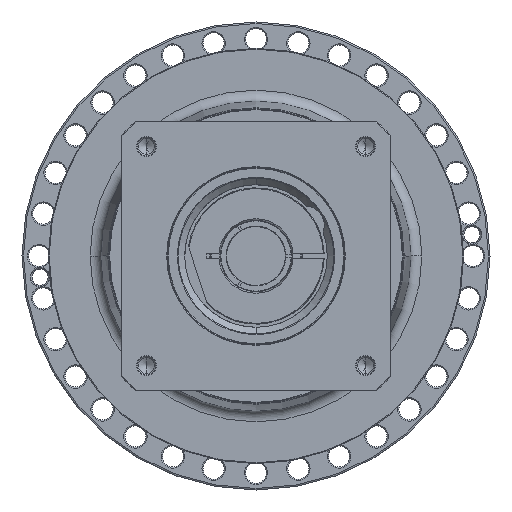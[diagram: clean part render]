
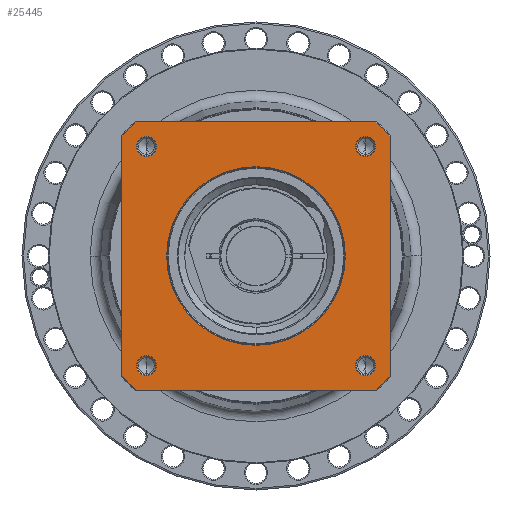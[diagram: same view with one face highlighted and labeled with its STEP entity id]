
A CAD part, left-side view. The second image highlights one B-rep face of the part: STEP entity #25445.
In plain terms, the highlighted planar face has unit normal (-1, 0, 0) as drawn and (0, 0, 1) by its records, which use the part's own axes.
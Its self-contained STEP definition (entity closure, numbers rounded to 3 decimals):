
#24196=CARTESIAN_POINT('',(0.,0.,
76.));
#24197=DIRECTION('',(0.,0.,-1.));
#24198=DIRECTION('',(0.,-1.,0.));
#24199=AXIS2_PLACEMENT_3D('',#24196,#24197,#24198);
#24201=CARTESIAN_POINT('',(0.,0.,
76.));
#24202=DIRECTION('',(0.,0.,-1.));
#24203=DIRECTION('',(0.,1.,0.));
#24204=AXIS2_PLACEMENT_3D('',#24201,#24202,#24203);
#24206=CARTESIAN_POINT('',(0.,0.,76.));
#24207=DIRECTION('',(0.,0.,1.));
#24208=DIRECTION('',(-0.746,-0.666,0.));
#24209=AXIS2_PLACEMENT_3D('',#24206,#24207,#24208);
#24221=DIRECTION('',(1.,0.,0.));
#24222=VECTOR('',#24221,154.58);
#24223=CARTESIAN_POINT('',(-77.29,-86.5,76.));
#24224=LINE('',#24223,#24222);
#24234=CARTESIAN_POINT('',(0.,0.,76.));
#24235=DIRECTION('',(0.,0.,1.));
#24236=DIRECTION('',(0.666,-0.746,0.));
#24237=AXIS2_PLACEMENT_3D('',#24234,#24235,#24236);
#24249=DIRECTION('',(0.,1.,0.));
#24250=VECTOR('',#24249,154.58);
#24251=CARTESIAN_POINT('',(86.5,-77.29,76.));
#24252=LINE('',#24251,#24250);
#24262=CARTESIAN_POINT('',(0.,0.,76.));
#24263=DIRECTION('',(0.,0.,1.));
#24264=DIRECTION('',(0.746,0.666,0.));
#24265=AXIS2_PLACEMENT_3D('',#24262,#24263,#24264);
#24277=DIRECTION('',(-1.,0.,0.));
#24278=VECTOR('',#24277,154.58);
#24279=CARTESIAN_POINT('',(77.29,86.5,76.));
#24280=LINE('',#24279,#24278);
#24285=CARTESIAN_POINT('',(0.,0.,76.));
#24286=DIRECTION('',(0.,0.,1.));
#24287=DIRECTION('',(-0.666,0.746,0.));
#24288=AXIS2_PLACEMENT_3D('',#24285,#24286,#24287);
#24305=DIRECTION('',(0.,-1.,0.));
#24306=VECTOR('',#24305,154.58);
#24307=CARTESIAN_POINT('',(-86.5,77.29,76.));
#24308=LINE('',#24307,#24306);
#24391=CARTESIAN_POINT('',(-70.711,70.711,76.));
#24392=DIRECTION('',(0.,0.,1.));
#24393=DIRECTION('',(-1.,0.,0.));
#24394=AXIS2_PLACEMENT_3D('',#24391,#24392,#24393);
#24409=CARTESIAN_POINT('',(-70.711,70.711,76.));
#24410=DIRECTION('',(0.,0.,1.));
#24411=DIRECTION('',(1.,0.,0.));
#24412=AXIS2_PLACEMENT_3D('',#24409,#24410,#24411);
#24445=CARTESIAN_POINT('',(70.711,70.711,76.));
#24446=DIRECTION('',(0.,0.,1.));
#24447=DIRECTION('',(-1.,0.,0.));
#24448=AXIS2_PLACEMENT_3D('',#24445,#24446,#24447);
#24463=CARTESIAN_POINT('',(70.711,70.711,76.));
#24464=DIRECTION('',(0.,0.,1.));
#24465=DIRECTION('',(1.,0.,0.));
#24466=AXIS2_PLACEMENT_3D('',#24463,#24464,#24465);
#24499=CARTESIAN_POINT('',(70.711,-70.711,76.));
#24500=DIRECTION('',(0.,0.,1.));
#24501=DIRECTION('',(-1.,0.,0.));
#24502=AXIS2_PLACEMENT_3D('',#24499,#24500,#24501);
#24517=CARTESIAN_POINT('',(70.711,-70.711,76.));
#24518=DIRECTION('',(0.,0.,1.));
#24519=DIRECTION('',(1.,0.,0.));
#24520=AXIS2_PLACEMENT_3D('',#24517,#24518,#24519);
#24553=CARTESIAN_POINT('',(-70.711,-70.711,76.));
#24554=DIRECTION('',(0.,0.,1.));
#24555=DIRECTION('',(-1.,0.,0.));
#24556=AXIS2_PLACEMENT_3D('',#24553,#24554,#24555);
#24571=CARTESIAN_POINT('',(-70.711,-70.711,76.));
#24572=DIRECTION('',(0.,0.,1.));
#24573=DIRECTION('',(1.,0.,0.));
#24574=AXIS2_PLACEMENT_3D('',#24571,#24572,#24573);
#24703=CARTESIAN_POINT('',(86.5,-77.29,76.));
#24704=CARTESIAN_POINT('',(86.5,77.29,76.));
#24705=VERTEX_POINT('',#24703);
#24706=VERTEX_POINT('',#24704);
#24711=CARTESIAN_POINT('',(77.29,-86.5,76.));
#24712=VERTEX_POINT('',#24711);
#24715=CARTESIAN_POINT('',(-77.29,-86.5,76.));
#24716=VERTEX_POINT('',#24715);
#24719=CARTESIAN_POINT('',(-86.5,-77.29,76.));
#24720=VERTEX_POINT('',#24719);
#24723=CARTESIAN_POINT('',(-86.5,77.29,76.));
#24724=VERTEX_POINT('',#24723);
#24727=CARTESIAN_POINT('',(-77.29,86.5,76.));
#24728=VERTEX_POINT('',#24727);
#24731=CARTESIAN_POINT('',(77.29,86.5,76.));
#24732=VERTEX_POINT('',#24731);
#24741=CARTESIAN_POINT('',(-77.111,70.711,76.));
#24742=CARTESIAN_POINT('',(-64.311,70.711,76.));
#24743=VERTEX_POINT('',#24741);
#24744=VERTEX_POINT('',#24742);
#24767=CARTESIAN_POINT('',(77.111,70.711,76.));
#24768=CARTESIAN_POINT('',(64.311,70.711,76.));
#24769=VERTEX_POINT('',#24767);
#24770=VERTEX_POINT('',#24768);
#24775=CARTESIAN_POINT('',(77.111,-70.711,76.));
#24776=CARTESIAN_POINT('',(64.311,-70.711,76.));
#24777=VERTEX_POINT('',#24775);
#24778=VERTEX_POINT('',#24776);
#24783=CARTESIAN_POINT('',(-64.311,-70.711,76.));
#24784=CARTESIAN_POINT('',(-77.111,-70.711,76.));
#24785=VERTEX_POINT('',#24783);
#24786=VERTEX_POINT('',#24784);
#24791=CARTESIAN_POINT('',(0.,-57.65,76.));
#24792=CARTESIAN_POINT('',(0.,57.65,
76.));
#24793=VERTEX_POINT('',#24791);
#24794=VERTEX_POINT('',#24792);
#25393=CARTESIAN_POINT('',(0.,0.,76.));
#25394=DIRECTION('',(0.,0.,1.));
#25395=DIRECTION('',(1.,0.,0.));
#25396=AXIS2_PLACEMENT_3D('',#25393,#25394,#25395);
#25397=PLANE('',#25396);
#25399=ORIENTED_EDGE('',*,*,#25398,.F.);
#25401=ORIENTED_EDGE('',*,*,#25400,.F.);
#25403=ORIENTED_EDGE('',*,*,#25402,.F.);
#25405=ORIENTED_EDGE('',*,*,#25404,.F.);
#25407=ORIENTED_EDGE('',*,*,#25406,.F.);
#25409=ORIENTED_EDGE('',*,*,#25408,.F.);
#25411=ORIENTED_EDGE('',*,*,#25410,.F.);
#25413=ORIENTED_EDGE('',*,*,#25412,.F.);
#25414=EDGE_LOOP('',(#25399,#25401,#25403,#25405,#25407,#25409,#25411,#25413));
#25415=FACE_OUTER_BOUND('',#25414,.F.);
#25416=ORIENTED_EDGE('',*,*,#25383,.F.);
#25418=ORIENTED_EDGE('',*,*,#25417,.F.);
#25419=EDGE_LOOP('',(#25416,#25418));
#25420=FACE_BOUND('',#25419,.F.);
#25422=ORIENTED_EDGE('',*,*,#25421,.T.);
#25424=ORIENTED_EDGE('',*,*,#25423,.T.);
#25425=EDGE_LOOP('',(#25422,#25424));
#25426=FACE_BOUND('',#25425,.F.);
#25428=ORIENTED_EDGE('',*,*,#25427,.T.);
#25430=ORIENTED_EDGE('',*,*,#25429,.T.);
#25431=EDGE_LOOP('',(#25428,#25430));
#25432=FACE_BOUND('',#25431,.F.);
#25434=ORIENTED_EDGE('',*,*,#25433,.T.);
#25436=ORIENTED_EDGE('',*,*,#25435,.T.);
#25437=EDGE_LOOP('',(#25434,#25436));
#25438=FACE_BOUND('',#25437,.F.);
#25440=ORIENTED_EDGE('',*,*,#25439,.T.);
#25442=ORIENTED_EDGE('',*,*,#25441,.T.);
#25443=EDGE_LOOP('',(#25440,#25442));
#25444=FACE_BOUND('',#25443,.F.);
#25445=ADVANCED_FACE('',(#25415,#25420,#25426,#25432,#25438,#25444),#25397,.T.);
#24200=CIRCLE('',#24199,57.65);
#24205=CIRCLE('',#24204,57.65);
#24210=CIRCLE('',#24209,116.);
#24238=CIRCLE('',#24237,116.);
#24266=CIRCLE('',#24265,116.);
#24289=CIRCLE('',#24288,116.);
#24395=CIRCLE('',#24394,6.4);
#24413=CIRCLE('',#24412,6.4);
#24449=CIRCLE('',#24448,6.4);
#24467=CIRCLE('',#24466,6.4);
#24503=CIRCLE('',#24502,6.4);
#24521=CIRCLE('',#24520,6.4);
#24557=CIRCLE('',#24556,6.4);
#24575=CIRCLE('',#24574,6.4);
#25383=EDGE_CURVE('',#24793,#24794,#24200,.T.);
#25398=EDGE_CURVE('',#24720,#24716,#24210,.T.);
#25400=EDGE_CURVE('',#24724,#24720,#24308,.T.);
#25402=EDGE_CURVE('',#24728,#24724,#24289,.T.);
#25404=EDGE_CURVE('',#24732,#24728,#24280,.T.);
#25406=EDGE_CURVE('',#24706,#24732,#24266,.T.);
#25408=EDGE_CURVE('',#24705,#24706,#24252,.T.);
#25410=EDGE_CURVE('',#24712,#24705,#24238,.T.);
#25412=EDGE_CURVE('',#24716,#24712,#24224,.T.);
#25417=EDGE_CURVE('',#24794,#24793,#24205,.T.);
#25421=EDGE_CURVE('',#24743,#24744,#24395,.T.);
#25423=EDGE_CURVE('',#24744,#24743,#24413,.T.);
#25427=EDGE_CURVE('',#24770,#24769,#24449,.T.);
#25429=EDGE_CURVE('',#24769,#24770,#24467,.T.);
#25433=EDGE_CURVE('',#24778,#24777,#24503,.T.);
#25435=EDGE_CURVE('',#24777,#24778,#24521,.T.);
#25439=EDGE_CURVE('',#24786,#24785,#24557,.T.);
#25441=EDGE_CURVE('',#24785,#24786,#24575,.T.);
